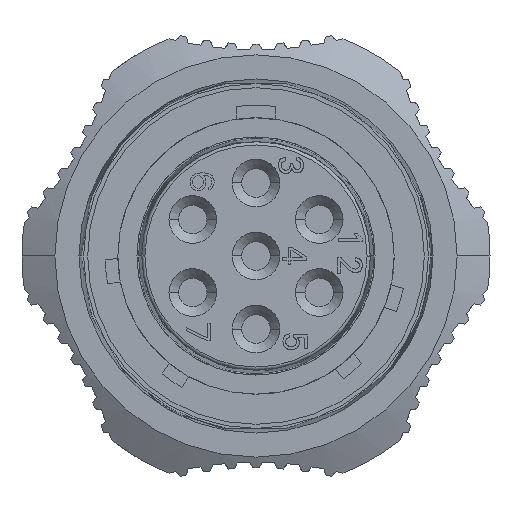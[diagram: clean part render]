
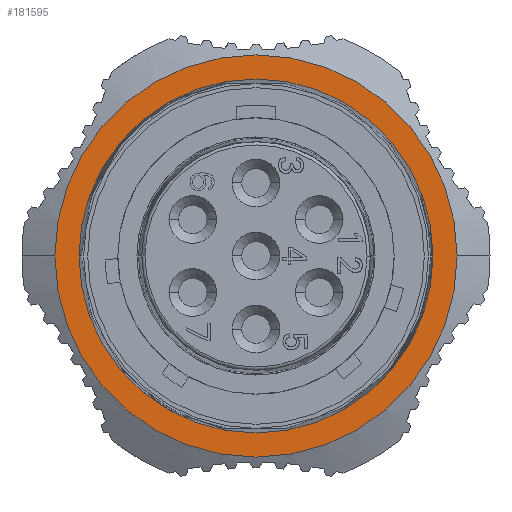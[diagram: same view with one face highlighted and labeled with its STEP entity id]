
A CAD part, front view. The second image highlights one B-rep face of the part: STEP entity #181595.
In plain terms, the highlighted planar face has unit normal (0, -1, 0).
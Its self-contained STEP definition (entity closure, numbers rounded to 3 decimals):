
#52708=CARTESIAN_POINT('',(0.,-37.5,0.));
#52709=DIRECTION('',(0.,1.,0.));
#52710=DIRECTION('',(1.,0.,0.));
#52711=AXIS2_PLACEMENT_3D('',#52708,#52709,#52710);
#52713=CARTESIAN_POINT('',(0.,-37.5,0.));
#52714=DIRECTION('',(0.,1.,0.));
#52715=DIRECTION('',(-1.,0.,0.));
#52716=AXIS2_PLACEMENT_3D('',#52713,#52714,#52715);
#52718=CARTESIAN_POINT('',(0.,-37.5,0.));
#52719=DIRECTION('',(0.,-1.,0.));
#52720=DIRECTION('',(-1.,0.,0.));
#52721=AXIS2_PLACEMENT_3D('',#52718,#52719,#52720);
#52723=CARTESIAN_POINT('',(0.,-37.5,0.));
#52724=DIRECTION('',(0.,-1.,0.));
#52725=DIRECTION('',(1.,0.,0.));
#52726=AXIS2_PLACEMENT_3D('',#52723,#52724,#52725);
#65164=CARTESIAN_POINT('',(11.15,-37.5,0.));
#65165=VERTEX_POINT('',#65164);
#65166=CARTESIAN_POINT('',(-11.15,-37.5,0.));
#65167=VERTEX_POINT('',#65166);
#65170=CARTESIAN_POINT('',(12.665,-37.5,0.));
#65171=CARTESIAN_POINT('',(-12.665,-37.5,0.));
#65172=VERTEX_POINT('',#65170);
#65173=VERTEX_POINT('',#65171);
#181580=CARTESIAN_POINT('',(0.,-37.5,0.));
#181581=DIRECTION('',(0.,1.,0.));
#181582=DIRECTION('',(1.,0.,0.));
#181583=AXIS2_PLACEMENT_3D('',#181580,#181581,#181582);
#181584=PLANE('',#181583);
#181586=ORIENTED_EDGE('',*,*,#181585,.T.);
#181588=ORIENTED_EDGE('',*,*,#181587,.T.);
#181589=EDGE_LOOP('',(#181586,#181588));
#181590=FACE_OUTER_BOUND('',#181589,.F.);
#181591=ORIENTED_EDGE('',*,*,#181544,.T.);
#181592=ORIENTED_EDGE('',*,*,#181563,.T.);
#181593=EDGE_LOOP('',(#181591,#181592));
#181594=FACE_BOUND('',#181593,.F.);
#181595=ADVANCED_FACE('',(#181590,#181594),#181584,.F.);
#52712=CIRCLE('',#52711,12.665);
#52717=CIRCLE('',#52716,12.665);
#52722=CIRCLE('',#52721,11.15);
#52727=CIRCLE('',#52726,11.15);
#181544=EDGE_CURVE('',#65167,#65165,#52722,.T.);
#181563=EDGE_CURVE('',#65165,#65167,#52727,.T.);
#181585=EDGE_CURVE('',#65172,#65173,#52712,.T.);
#181587=EDGE_CURVE('',#65173,#65172,#52717,.T.);
